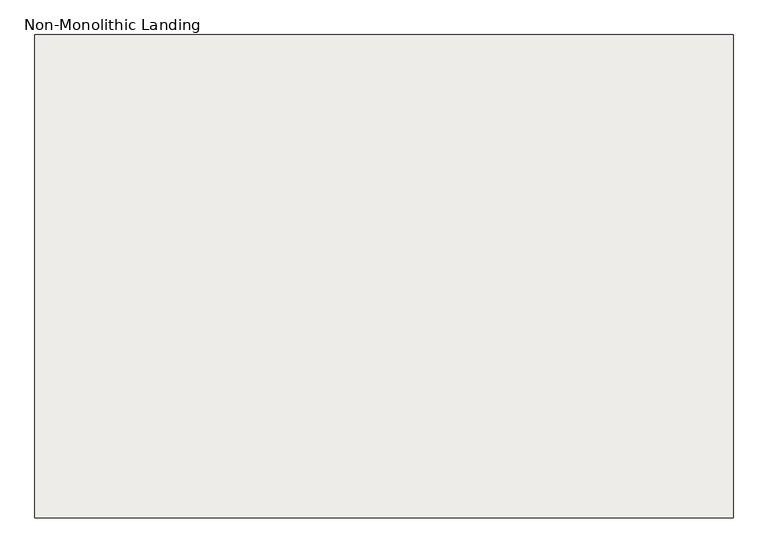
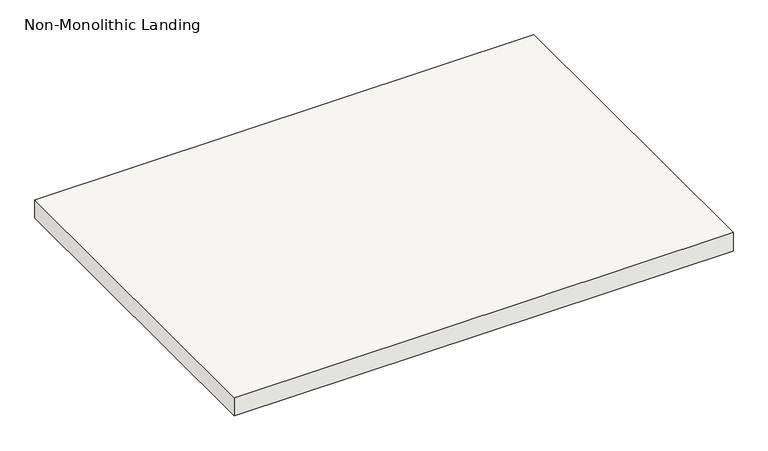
"""IFC4 building model written with IfcOpenShell, lengths in millimetres: slab geometry, Non-Monolithic Landing."""

import ifcopenshell
import ifcopenshell.guid

model = None  # the IFC model being written
_history = None  # IfcOwnerHistory: only IFC2X3 demands one
_inside = {}  # id of a spatial element -> (the spatial element, [elements in it])
_under = {}  # id of a project, library or spatial element -> (it, [spatial elements below it])
_declared = {}  # id of a project -> (the project, [libraries it declares])
_typed = {}  # id of a type object -> (the type object, [elements of that type])
_made_of = {}  # id of a material, layer set ... -> (it, [elements and type objects made of it])


def new_model(schema):
    """Start an empty IFC model of exactly this schema.

    Asked for "IFC4X3", IfcOpenShell would pick the latest addendum, in which some entities
    have other attributes; the version numbers below select the first issue.
    IFC2X3 requires an IfcOwnerHistory on every rooted entity: one is made here for all.
    """
    global model, _history
    if schema == "IFC4X3":
        model = ifcopenshell.file(schema_version=(4, 3, 0, 0))
    else:
        model = ifcopenshell.file(schema=schema)
    _inside.clear()
    _under.clear()
    _declared.clear()
    _typed.clear()
    _made_of.clear()
    _history = None
    if model.schema == "IFC2X3":
        org = make("IfcOrganization", Name="unknown")
        user = make(
            "IfcPersonAndOrganization",
            ThePerson=make("IfcPerson", FamilyName="unknown"),
            TheOrganization=org,
        )
        app = make(
            "IfcApplication",
            ApplicationDeveloper=org,
            Version="unknown",
            ApplicationFullName="unknown",
            ApplicationIdentifier="unknown",
        )
        _history = make(
            "IfcOwnerHistory",
            OwningUser=user,
            OwningApplication=app,
            ChangeAction="ADDED",
            CreationDate=0,
        )
    return model


def make(cls, **values):
    """One entity of the class cls with the attributes given. An attribute that is None is left unset."""
    return model.create_entity(
        cls, **{name: value for name, value in values.items() if value is not None}
    )


def rooted(cls, **values):
    """An entity with a GlobalId (a new one), such as an element, a storey or a relation."""
    return make(cls, GlobalId=ifcopenshell.guid.new(), OwnerHistory=_history, **values)


def si_unit(unit_type, name, prefix=None):
    """IfcSIUnit, for example si_unit("LENGTHUNIT", "METRE", prefix="MILLI")."""
    return make("IfcSIUnit", UnitType=unit_type, Prefix=prefix, Name=name)


def assignment(units):
    """IfcUnitAssignment: the units of a project."""
    return None if units is None else make("IfcUnitAssignment", Units=units)


def point(xyz):
    """IfcCartesianPoint."""
    return None if xyz is None else make("IfcCartesianPoint", Coordinates=xyz)


def direction(xyz):
    """IfcDirection."""
    return None if xyz is None else make("IfcDirection", DirectionRatios=xyz)


def frame(location, z_axis=None, x_axis=None):
    """IfcAxis2Placement3D, a coordinate frame: its origin and axes. An axis left out is left unset."""
    return make(
        "IfcAxis2Placement3D",
        Location=point(location),
        Axis=direction(z_axis),
        RefDirection=direction(x_axis),
    )


def origin():
    """The frame at (0, 0, 0) with its axes left unset."""
    return frame((0.0, 0.0, 0.0))


def place(relative_to, where):
    """IfcLocalPlacement: puts the frame where relative to a parent placement (None: the world)."""
    return make(
        "IfcLocalPlacement", PlacementRelTo=relative_to, RelativePlacement=where
    )


def context(
    kind, dimensions, precision=None, world=None, true_north=None, identifier=None
):
    """IfcGeometricRepresentationContext, for example the 3D "Model" context."""
    return make(
        "IfcGeometricRepresentationContext",
        ContextIdentifier=identifier,
        ContextType=kind,
        CoordinateSpaceDimension=dimensions,
        Precision=precision,
        WorldCoordinateSystem=world,
        TrueNorth=true_north,
    )


def project(units=None, contexts=None):
    """IfcProject with its units and contexts."""
    return rooted(
        "IfcProject",
        Name="project",
        RepresentationContexts=contexts,
        UnitsInContext=assignment(units),
    )


def spatial(cls, under=None, at=None, **own):
    """A site, building, storey or space (cls), placed at a placement, below another one or the project."""
    s = rooted(cls, ObjectPlacement=at, **own)
    if under is not None:
        _under.setdefault(under.id(), (under, []))[1].append(s)
    return s


def polyline(points):
    """IfcPolyline through the points."""
    return make("IfcPolyline", Points=[point(p) for p in points])


def outline(outer, holes=None, kind="AREA"):
    """IfcArbitraryClosedProfileDef: a profile drawn as a closed curve; with holes, ...WithVoids."""
    if holes is None:
        return make("IfcArbitraryClosedProfileDef", ProfileType=kind, OuterCurve=outer)
    return make(
        "IfcArbitraryProfileDefWithVoids",
        ProfileType=kind,
        OuterCurve=outer,
        InnerCurves=holes,
    )


def extrude(swept, where, along, depth):
    """IfcExtrudedAreaSolid: the profile swept, set in the frame where, extruded along a direction by depth."""
    return make(
        "IfcExtrudedAreaSolid",
        SweptArea=swept,
        Position=where,
        ExtrudedDirection=direction(along),
        Depth=depth,
    )


def shape(context_of_items, identifier, shape_type, items):
    """IfcShapeRepresentation: the items that make up one representation, for example the "Body"."""
    return make(
        "IfcShapeRepresentation",
        ContextOfItems=context_of_items,
        RepresentationIdentifier=identifier,
        RepresentationType=shape_type,
        Items=items,
    )


def source(mapping_origin, context_of_items, identifier, shape_type, items):
    """IfcRepresentationMap: a shape defined once, which mapped items show again and again."""
    return make(
        "IfcRepresentationMap",
        MappingOrigin=mapping_origin,
        MappedRepresentation=shape(context_of_items, identifier, shape_type, items),
    )


def transform(
    local_origin,
    x_axis=None,
    y_axis=None,
    z_axis=None,
    scale=None,
    scale2=None,
    scale3=None,
    uniform=True,
):
    """IfcCartesianTransformationOperator3D, or its non-uniform kind. x_axis, y_axis, z_axis: its Axis1, 2, 3."""
    if uniform:
        return make(
            "IfcCartesianTransformationOperator3D",
            Axis1=direction(x_axis),
            Axis2=direction(y_axis),
            LocalOrigin=point(local_origin),
            Scale=scale,
            Axis3=direction(z_axis),
        )
    return make(
        "IfcCartesianTransformationOperator3DnonUniform",
        Axis1=direction(x_axis),
        Axis2=direction(y_axis),
        LocalOrigin=point(local_origin),
        Scale=scale,
        Axis3=direction(z_axis),
        Scale2=scale2,
        Scale3=scale3,
    )


def mapped(mapping_source, mapping_target):
    """IfcMappedItem: shows the shape of a source again, moved by a transform."""
    return make(
        "IfcMappedItem", MappingSource=mapping_source, MappingTarget=mapping_target
    )


def made_of(thing, what):
    """Note that an element or type object is made of a material, layer set ...; save() writes the relation."""
    if what is not None:
        _made_of.setdefault(what.id(), (what, []))[1].append(thing)
    return thing


def element(
    cls,
    number,
    at=None,
    inside=None,
    cuts=None,
    type_object=None,
    material=None,
    context=None,
    identifier="Body",
    shape_type=None,
    held_by="IfcProductDefinitionShape",
    body=None,
    shapes=None,
    **own,
):
    """One element of the class cls, such as IfcWall. Its Tag is "e" and its number.

    at: its placement. inside: the storey or other place that contains it. cuts: it is an
    opening in that element (IfcRelVoidsElement). A single representation is given by context,
    identifier, shape_type and body (its items); several are given by shapes. held_by: the class
    of the entity that holds the representations. save() writes the other relations.
    """
    e = rooted(cls, Tag="e%d" % number, ObjectPlacement=at, **own)
    if body is not None:
        shapes = [shape(context, identifier, shape_type, body)]
    if shapes is not None:
        e.Representation = make(held_by, Representations=shapes)
    if inside is not None:
        _inside.setdefault(inside.id(), (inside, []))[1].append(e)
    if cuts is not None:
        rooted(
            "IfcRelVoidsElement", RelatingBuildingElement=cuts, RelatedOpeningElement=e
        )
    if type_object is not None:
        _typed.setdefault(type_object.id(), (type_object, []))[1].append(e)
    return made_of(e, material)


def aggregate(whole, parts):
    """IfcRelAggregates: a whole, such as a stair, and the parts it consists of."""
    return rooted("IfcRelAggregates", RelatingObject=whole, RelatedObjects=parts)


def save(model, path):
    """Write the relations noted so far, then the file.

    IfcRelAggregates (storeys below a building ...), IfcRelContainedInSpatialStructure (elements
    in a storey), IfcRelDefinesByType, IfcRelAssociatesMaterial and IfcRelDeclares: one each for
    every whole, place, type object, material and project.
    """
    for whole, parts in _under.values():
        aggregate(whole, parts)
    for where, things in _inside.values():
        rooted(
            "IfcRelContainedInSpatialStructure",
            RelatedElements=things,
            RelatingStructure=where,
        )
    for kind, things in _typed.values():
        rooted("IfcRelDefinesByType", RelatedObjects=things, RelatingType=kind)
    for what, things in _made_of.values():
        rooted("IfcRelAssociatesMaterial", RelatedObjects=things, RelatingMaterial=what)
    for by, libraries in _declared.values():
        rooted("IfcRelDeclares", RelatingContext=by, RelatedDefinitions=libraries)
    model.write(path)


def non_monolithic_landing_93eedf80(model_context):
    return source(origin(), model_context, "Body", "SweptSolid", [
        extrude(outline(polyline([(112292.3503162, 33246.6812523), (113613.1503162, 33246.6812523), (113613.1503162, 32332.2812523), (112292.3503162, 32332.2812523), (112292.3503162, 33246.6812523)])), frame((0.0, 0.0, 2126.3428571), z_axis=(0.0, 0.0, 1.0), x_axis=(1.0, 0.0, 0.0)), (0.0, 0.0, 1.0), 50.8),
    ])


if __name__ == "__main__":
    model = new_model("IFC4")
    model_context = context("Model", 3, world=origin())
    ifc_project = project(units=[si_unit("LENGTHUNIT", "METRE", prefix="MILLI")], contexts=[model_context])
    site = spatial("IfcSite", under=ifc_project)
    building = spatial("IfcBuilding", under=site)
    placement = place(None, origin())
    non_monolithic_landing_shape = non_monolithic_landing_93eedf80(model_context)
    element("IfcSlab", 1, ObjectType="Non-Monolithic Landing", at=placement, inside=building, context=model_context, shape_type="MappedRepresentation", body=[
        mapped(non_monolithic_landing_shape, transform((0.0, 0.0, 0.0), x_axis=(1.0, 0.0, 0.0), y_axis=(0.0, 1.0, 0.0), z_axis=(0.0, 0.0, 1.0))),
    ])
    save(model, "model.ifc")
